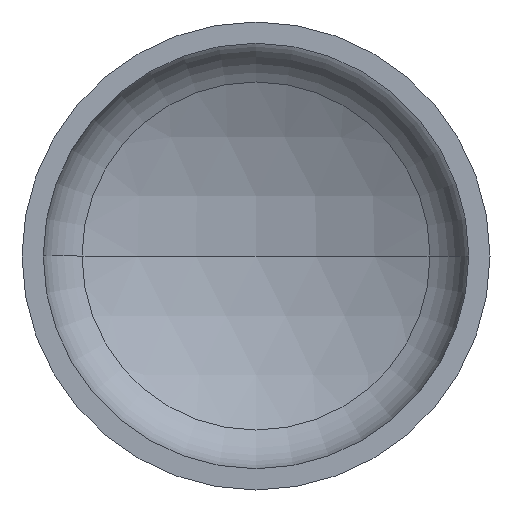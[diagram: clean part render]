
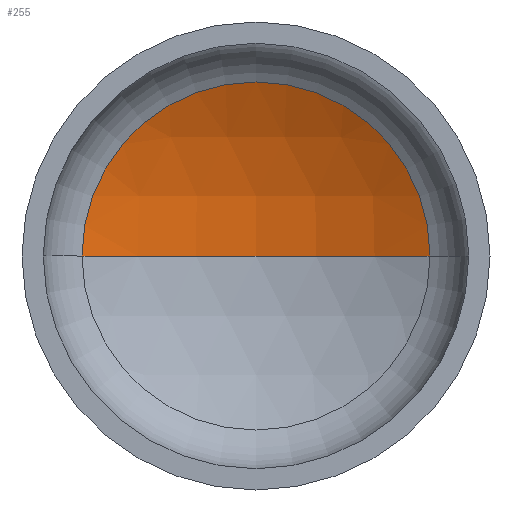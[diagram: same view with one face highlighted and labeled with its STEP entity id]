
A CAD part, front view. The second image highlights one B-rep face of the part: STEP entity #255.
In plain terms, the highlighted spherical face has radius 880 mm.
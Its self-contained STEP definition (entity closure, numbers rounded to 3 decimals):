
#28 = EDGE_LOOP ( 'NONE', ( #124, #84, #194 ) ) ;
#31 = AXIS2_PLACEMENT_3D ( 'NONE', #32, #166, #173 ) ;
#32 = CARTESIAN_POINT ( 'NONE',  ( 0., -478.649, 0. ) ) ;
#34 = AXIS2_PLACEMENT_3D ( 'NONE', #264, #262, #280 ) ;
#37 = AXIS2_PLACEMENT_3D ( 'NONE', #212, #214, #233 ) ;
#43 = AXIS2_PLACEMENT_3D ( 'NONE', #311, #269, #399 ) ;
#45 = CARTESIAN_POINT ( 'NONE',  ( 409.014, 300.522, 0. ) ) ;
#84 = ORIENTED_EDGE ( 'NONE', *, *, #169, .T. ) ;
#102 = CIRCLE ( 'NONE', #43, 409.014 ) ;
#104 = CARTESIAN_POINT ( 'NONE',  ( -409.014, 300.522, 0. ) ) ;
#115 = VERTEX_POINT ( 'NONE', #304 ) ;
#118 = FACE_OUTER_BOUND ( 'NONE', #28, .T. ) ;
#124 = ORIENTED_EDGE ( 'NONE', *, *, #188, .F. ) ;
#158 = EDGE_CURVE ( 'NONE', #251, #373, #102, .T. ) ;
#166 = DIRECTION ( 'NONE',  ( 0., 0., -1. ) ) ;
#169 = EDGE_CURVE ( 'NONE', #115, #251, #340, .T. ) ;
#173 = DIRECTION ( 'NONE',  ( -1., 0., 0. ) ) ;
#188 = EDGE_CURVE ( 'NONE', #115, #373, #224, .T. ) ;
#194 = ORIENTED_EDGE ( 'NONE', *, *, #158, .T. ) ;
#212 = CARTESIAN_POINT ( 'NONE',  ( 0., -478.649, 0. ) ) ;
#214 = DIRECTION ( 'NONE',  ( 0., 0., -1. ) ) ;
#224 = CIRCLE ( 'NONE', #34, 880. ) ;
#233 = DIRECTION ( 'NONE',  ( -1., 0., 0. ) ) ;
#251 = VERTEX_POINT ( 'NONE', #45 ) ;
#255 = ADVANCED_FACE ( 'NONE', ( #118 ), #273, .F. ) ;
#262 = DIRECTION ( 'NONE',  ( 0., 0., 1. ) ) ;
#264 = CARTESIAN_POINT ( 'NONE',  ( 0., -478.649, 0. ) ) ;
#269 = DIRECTION ( 'NONE',  ( 0., -1., 0. ) ) ;
#273 = SPHERICAL_SURFACE ( 'NONE', #31, 880. ) ;
#280 = DIRECTION ( 'NONE',  ( 1., 0., 0. ) ) ;
#304 = CARTESIAN_POINT ( 'NONE',  ( 0., 401.351, 0. ) ) ;
#311 = CARTESIAN_POINT ( 'NONE',  ( 0., 300.522, 0. ) ) ;
#340 = CIRCLE ( 'NONE', #37, 880. ) ;
#373 = VERTEX_POINT ( 'NONE', #104 ) ;
#399 = DIRECTION ( 'NONE',  ( 1., 0., 0. ) ) ;
